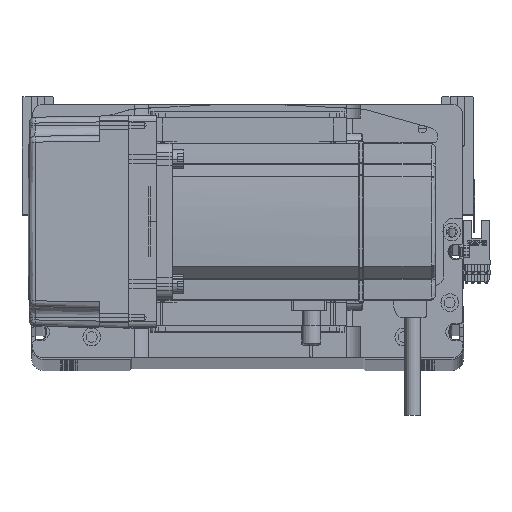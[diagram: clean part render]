
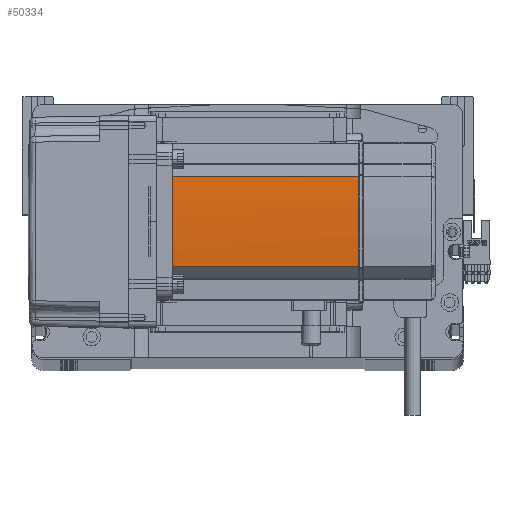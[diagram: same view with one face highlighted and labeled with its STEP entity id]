
A CAD part, top view. The second image highlights one B-rep face of the part: STEP entity #50334.
In plain terms, the highlighted cylindrical face has radius 270 mm (diameter 540 mm), a partial arc.
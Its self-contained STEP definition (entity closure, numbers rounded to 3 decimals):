
#183 = CARTESIAN_POINT ( 'NONE',  ( -230., 0., 39. ) ) ;
#259 = EDGE_CURVE ( 'NONE', #53818, #15969, #34551, .T. ) ;
#582 = EDGE_CURVE ( 'NONE', #23456, #53818, #25161, .T. ) ;
#593 = DIRECTION ( 'NONE',  ( 0., 0., 1. ) ) ;
#2379 = ORIENTED_EDGE ( 'NONE', *, *, #259, .T. ) ;
#3302 = EDGE_CURVE ( 'NONE', #22822, #15969, #40500, .T. ) ;
#3527 = ORIENTED_EDGE ( 'NONE', *, *, #582, .T. ) ;
#4316 = EDGE_CURVE ( 'NONE', #23456, #24929, #10923, .T. ) ;
#4747 = VERTEX_POINT ( 'NONE', #27072 ) ;
#5412 = ORIENTED_EDGE ( 'NONE', *, *, #3302, .F. ) ;
#9422 = DIRECTION ( 'NONE',  ( 0., 0., -1. ) ) ;
#9616 = DIRECTION ( 'NONE',  ( -1., 0., 0. ) ) ;
#10523 = LINE ( 'NONE', #23982, #35028 ) ;
#10923 = CIRCLE ( 'NONE', #44630, 270. ) ;
#11382 = CARTESIAN_POINT ( 'NONE',  ( -230., 0., 134. ) ) ;
#12983 = DIRECTION ( 'NONE',  ( -1., 0., 0. ) ) ;
#14124 = CARTESIAN_POINT ( 'NONE',  ( 39.042, -22.724, 39. ) ) ;
#14834 = DIRECTION ( 'NONE',  ( 0., 0., -1. ) ) ;
#15183 = ORIENTED_EDGE ( 'NONE', *, *, #20285, .T. ) ;
#15357 = DIRECTION ( 'NONE',  ( 0., 0., -1. ) ) ;
#15969 = VERTEX_POINT ( 'NONE', #59305 ) ;
#19511 = CARTESIAN_POINT ( 'NONE',  ( -230., 0., 134. ) ) ;
#19721 = CYLINDRICAL_SURFACE ( 'NONE', #46622, 270. ) ;
#20285 = EDGE_CURVE ( 'NONE', #4747, #24929, #10523, .T. ) ;
#22822 = VERTEX_POINT ( 'NONE', #40091 ) ;
#23456 = VERTEX_POINT ( 'NONE', #49839 ) ;
#23622 = AXIS2_PLACEMENT_3D ( 'NONE', #11382, #15357, #24716 ) ;
#23982 = CARTESIAN_POINT ( 'NONE',  ( 39.042, -22.724, 58. ) ) ;
#24187 = DIRECTION ( 'NONE',  ( -1., 0., 0. ) ) ;
#24716 = DIRECTION ( 'NONE',  ( -1., 0., 0. ) ) ;
#24929 = VERTEX_POINT ( 'NONE', #14124 ) ;
#25161 = LINE ( 'NONE', #51084, #31570 ) ;
#26760 = ORIENTED_EDGE ( 'NONE', *, *, #4316, .F. ) ;
#26972 = CARTESIAN_POINT ( 'NONE',  ( 40., 0.042, 134. ) ) ;
#27072 = CARTESIAN_POINT ( 'NONE',  ( 39.042, -22.724, 134. ) ) ;
#31570 = VECTOR ( 'NONE', #593, 1000. ) ;
#31572 = CARTESIAN_POINT ( 'NONE',  ( 40., 0.127, 134. ) ) ;
#31857 = EDGE_CURVE ( 'NONE', #22822, #4747, #39370, .T. ) ;
#34551 = CIRCLE ( 'NONE', #40556, 270. ) ;
#34827 = CARTESIAN_POINT ( 'NONE',  ( 40., -0.042, 134. ) ) ;
#35028 = VECTOR ( 'NONE', #52098, 1000. ) ;
#36238 = CARTESIAN_POINT ( 'NONE',  ( 40., -0.127, 134. ) ) ;
#39370 = CIRCLE ( 'NONE', #23622, 270. ) ;
#40091 = CARTESIAN_POINT ( 'NONE',  ( 40., -0.127, 134. ) ) ;
#40500 = B_SPLINE_CURVE_WITH_KNOTS ( 'NONE', 3,
 ( #36238, #34827, #26972, #31572 ),
 .UNSPECIFIED., .F., .F.,
 ( 4, 4 ),
 ( 0., 1. ),
 .UNSPECIFIED. ) ;
#40556 = AXIS2_PLACEMENT_3D ( 'NONE', #19511, #14834, #24187 ) ;
#41355 = DIRECTION ( 'NONE',  ( 0., 0., -1. ) ) ;
#44449 = ORIENTED_EDGE ( 'NONE', *, *, #31857, .T. ) ;
#44630 = AXIS2_PLACEMENT_3D ( 'NONE', #183, #9422, #9616 ) ;
#46622 = AXIS2_PLACEMENT_3D ( 'NONE', #59209, #41355, #12983 ) ;
#49839 = CARTESIAN_POINT ( 'NONE',  ( 39.042, 22.724, 39. ) ) ;
#50334 = ADVANCED_FACE ( 'NONE', ( #53554 ), #19721, .T. ) ;
#51084 = CARTESIAN_POINT ( 'NONE',  ( 39.042, 22.724, 58. ) ) ;
#52098 = DIRECTION ( 'NONE',  ( 0., 0., -1. ) ) ;
#53554 = FACE_OUTER_BOUND ( 'NONE', #58705, .T. ) ;
#53818 = VERTEX_POINT ( 'NONE', #56932 ) ;
#56932 = CARTESIAN_POINT ( 'NONE',  ( 39.042, 22.724, 134. ) ) ;
#58705 = EDGE_LOOP ( 'NONE', ( #15183, #26760, #3527, #2379, #5412, #44449 ) ) ;
#59209 = CARTESIAN_POINT ( 'NONE',  ( -230., 0., 58. ) ) ;
#59305 = CARTESIAN_POINT ( 'NONE',  ( 40., 0.127, 134. ) ) ;
